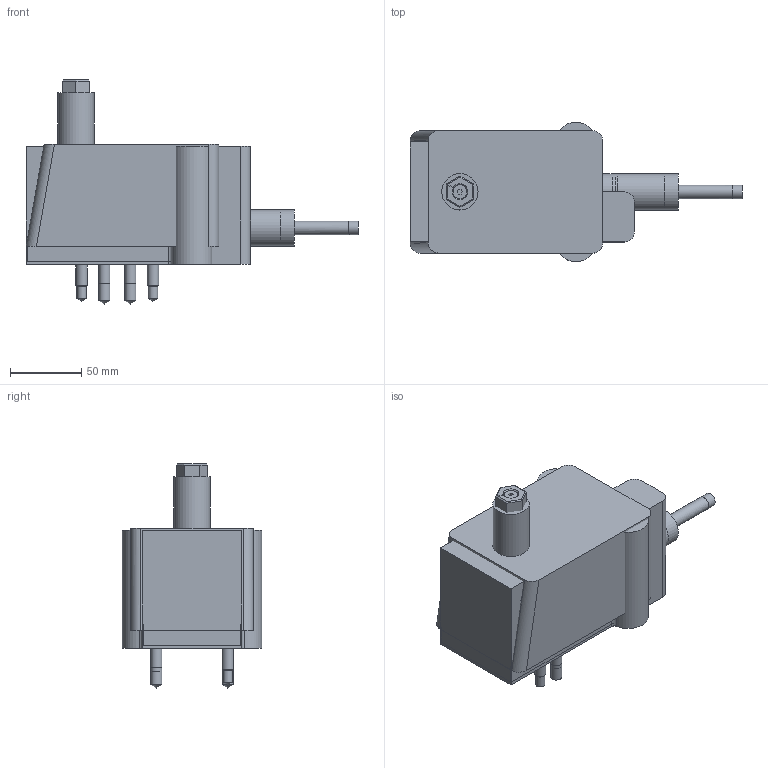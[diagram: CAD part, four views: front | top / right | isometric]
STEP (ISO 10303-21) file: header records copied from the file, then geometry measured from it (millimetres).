
FILE_DESCRIPTION(('STEP AP214'),'1');
FILE_NAME('0011_EZ-00-S-L_201209.stp','2020-12-14T12:19:13',(' '),(' '),'Spatial InterOp 3D',' ',' ');
FILE_SCHEMA(('AUTOMOTIVE_DESIGN { 1 0 10303 214 1 1 1 1 }'));
Length unit declared in the file: metre
Products named in the file (21): 1582908874; 1582908804; 1562099358; 1552080222; 1562100740; 1580700896; 1607695555; 1583758520; 1580688640; 1580688599; 1580688335; 1580700033; 1580702734; 1580702757; 1580689014; 1580689030; 1580689046; 1580689062; 1580689236; 1580689244; 1
Bounding box: 232.59 x 97.71 x 156.95 mm (x, y, z)
Volume: 2454076.1 mm3; surface area: 231873.8 mm2
Topology: 20 solids, 20 shells, 329 faces, 740 edges, 474 vertices
Faces by surface type: plane 175, cylinder 84, cone 56, torus 7, bspline 4, sphere 3
Full cylindrical faces by diameter (mm): 2.8 x1, 3.797 x1, 4.089 x1, 4.8 x1, 4.826 x3, 4.917 x1, 5 x2, 5.159 x1, 6 x1, 6.35 x1, 6.528 x2, 7.938 x11, 8.433 x1, 8.5 x2, 8.731 x1, 9.5 x1, 9.525 x4, 11.906 x2, 12.7 x2, 12.751 x1, 14.25 x2, 15.875 x1, 25.146 x1, 25.4 x1, 25.527 x1, 26.746 x2, 27 x2, 50.292 x1
Entity records: 22327 total; most frequent: CARTESIAN_POINT 12126, DIRECTION 1492, ORIENTED_EDGE 1210, EDGE_CURVE 605, AXIS2_PLACEMENT_3D 583, EDGE_LOOP 460, VERTEX_POINT 437, STYLED_ITEM 412
